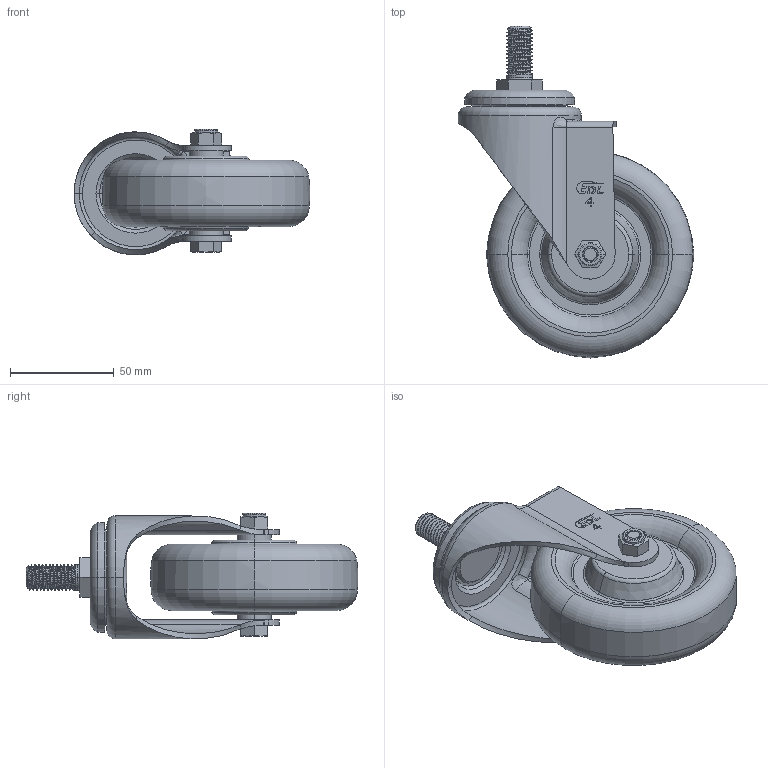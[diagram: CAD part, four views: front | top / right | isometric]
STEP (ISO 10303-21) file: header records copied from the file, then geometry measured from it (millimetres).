
FILE_DESCRIPTION((''),'2;1');
FILE_NAME('S54734_ASM','2021-08-10T',('lenovo'),(''),'PRO/ENGINEER BY PARAMETRIC TECHNOLOGY CORPORATION, 2010280','PRO/ENGINEER BY PARAMETRIC TECHNOLOGY CORPORATION, 2010280','');
FILE_SCHEMA(('CONFIG_CONTROL_DESIGN'));
Length unit declared in the file: millimetre
Products named in the file (6): S544-11; S540-23; 504-986; S540-33; S540-34; S54734_ASM
Assembly tree (5 placements, depth 2):
  S54734_ASM
    S544-11
    S540-23
    504-986
    S540-33
    S540-34
Bounding box: 113.63 x 159.98 x 60.65 mm (x, y, z)
Volume: 259971.3 mm3; surface area: 58423.2 mm2
Topology: 5 solids, 5 shells, 283 faces, 673 edges, 416 vertices
Faces by surface type: plane 113, cylinder 69, cone 38, torus 36, bspline 27
Entity records: 13267 total; most frequent: CARTESIAN_POINT 6738, ORIENTED_EDGE 1346, DIRECTION 1303, EDGE_CURVE 673, AXIS2_PLACEMENT_3D 490, VERTEX_POINT 416, VECTOR 323, LINE 323
